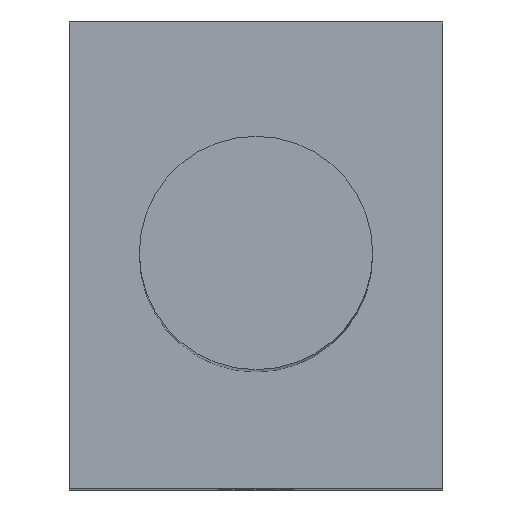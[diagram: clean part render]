
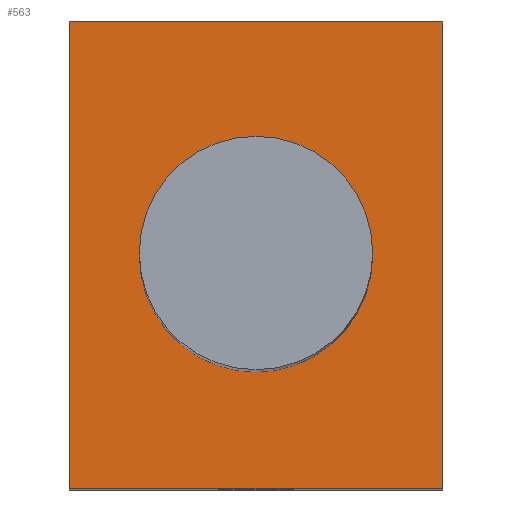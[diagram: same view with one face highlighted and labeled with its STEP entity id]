
A CAD part, top view. The second image highlights one B-rep face of the part: STEP entity #563.
In plain terms, the highlighted planar face has unit normal (0, 0, 1).
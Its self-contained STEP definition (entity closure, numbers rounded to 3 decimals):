
#10 = LINE ( 'NONE', #244, #529 ) ;
#37 = VERTEX_POINT ( 'NONE', #134 ) ;
#44 = EDGE_LOOP ( 'NONE', ( #318, #369, #400, #627 ) ) ;
#53 = VERTEX_POINT ( 'NONE', #279 ) ;
#57 = DIRECTION ( 'NONE',  ( 0., 1., 0. ) ) ;
#62 = ORIENTED_EDGE ( 'NONE', *, *, #334, .T. ) ;
#71 = LINE ( 'NONE', #312, #288 ) ;
#84 = DIRECTION ( 'NONE',  ( 0., 1., 0. ) ) ;
#113 = DIRECTION ( 'NONE',  ( 1., 0., 0. ) ) ;
#114 = AXIS2_PLACEMENT_3D ( 'NONE', #452, #159, #497 ) ;
#134 = CARTESIAN_POINT ( 'NONE',  ( -4., 5., 6.5 ) ) ;
#137 = VERTEX_POINT ( 'NONE', #515 ) ;
#159 = DIRECTION ( 'NONE',  ( 0., 0., -1. ) ) ;
#165 = VECTOR ( 'NONE', #113, 1000. ) ;
#205 = CARTESIAN_POINT ( 'NONE',  ( -4., -5., 6.5 ) ) ;
#219 = ORIENTED_EDGE ( 'NONE', *, *, #494, .T. ) ;
#244 = CARTESIAN_POINT ( 'NONE',  ( 4., -5., 6.5 ) ) ;
#257 = EDGE_LOOP ( 'NONE', ( #62, #219 ) ) ;
#270 = FACE_BOUND ( 'NONE', #257, .T. ) ;
#278 = DIRECTION ( 'NONE',  ( 0., 0., 1. ) ) ;
#279 = CARTESIAN_POINT ( 'NONE',  ( 0., -2.5, 6.5 ) ) ;
#288 = VECTOR ( 'NONE', #424, 1000. ) ;
#312 = CARTESIAN_POINT ( 'NONE',  ( -4., 5., 6.5 ) ) ;
#318 = ORIENTED_EDGE ( 'NONE', *, *, #395, .F. ) ;
#331 = EDGE_CURVE ( 'NONE', #137, #566, #407, .T. ) ;
#334 = EDGE_CURVE ( 'NONE', #462, #53, #696, .T. ) ;
#338 = AXIS2_PLACEMENT_3D ( 'NONE', #577, #362, #57 ) ;
#355 = EDGE_CURVE ( 'NONE', #37, #374, #71, .T. ) ;
#362 = DIRECTION ( 'NONE',  ( 0., 0., -1. ) ) ;
#369 = ORIENTED_EDGE ( 'NONE', *, *, #331, .T. ) ;
#374 = VERTEX_POINT ( 'NONE', #658 ) ;
#395 = EDGE_CURVE ( 'NONE', #137, #37, #714, .T. ) ;
#396 = VECTOR ( 'NONE', #84, 1000. ) ;
#400 = ORIENTED_EDGE ( 'NONE', *, *, #709, .T. ) ;
#407 = LINE ( 'NONE', #636, #165 ) ;
#423 = CIRCLE ( 'NONE', #114, 2.5 ) ;
#424 = DIRECTION ( 'NONE',  ( 1., 0., 0. ) ) ;
#452 = CARTESIAN_POINT ( 'NONE',  ( 0., 0., 6.5 ) ) ;
#462 = VERTEX_POINT ( 'NONE', #549 ) ;
#479 = AXIS2_PLACEMENT_3D ( 'NONE', #679, #278, #668 ) ;
#494 = EDGE_CURVE ( 'NONE', #53, #462, #423, .T. ) ;
#497 = DIRECTION ( 'NONE',  ( 0., -1., 0. ) ) ;
#515 = CARTESIAN_POINT ( 'NONE',  ( -4., -5., 6.5 ) ) ;
#526 = DIRECTION ( 'NONE',  ( 0., 1., 0. ) ) ;
#529 = VECTOR ( 'NONE', #526, 1000. ) ;
#549 = CARTESIAN_POINT ( 'NONE',  ( 0., 2.5, 6.5 ) ) ;
#563 = ADVANCED_FACE ( 'NONE', ( #270, #629 ), #739, .T. ) ;
#566 = VERTEX_POINT ( 'NONE', #683 ) ;
#577 = CARTESIAN_POINT ( 'NONE',  ( 0., 0., 6.5 ) ) ;
#627 = ORIENTED_EDGE ( 'NONE', *, *, #355, .F. ) ;
#629 = FACE_OUTER_BOUND ( 'NONE', #44, .T. ) ;
#636 = CARTESIAN_POINT ( 'NONE',  ( -4., -5., 6.5 ) ) ;
#658 = CARTESIAN_POINT ( 'NONE',  ( 4., 5., 6.5 ) ) ;
#668 = DIRECTION ( 'NONE',  ( 1., 0., 0. ) ) ;
#679 = CARTESIAN_POINT ( 'NONE',  ( 0., -5., 6.5 ) ) ;
#683 = CARTESIAN_POINT ( 'NONE',  ( 4., -5., 6.5 ) ) ;
#696 = CIRCLE ( 'NONE', #338, 2.5 ) ;
#709 = EDGE_CURVE ( 'NONE', #566, #374, #10, .T. ) ;
#714 = LINE ( 'NONE', #205, #396 ) ;
#739 = PLANE ( 'NONE',  #479 ) ;
